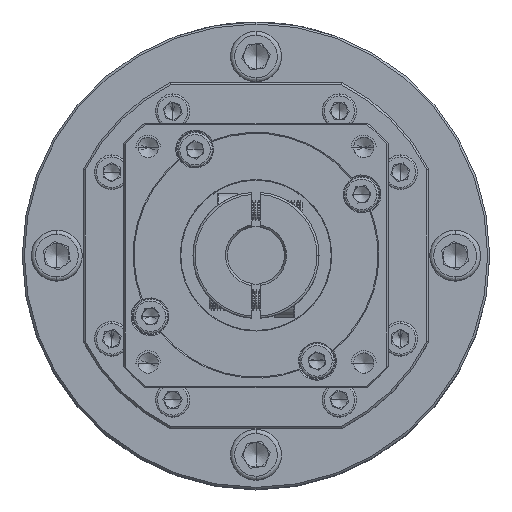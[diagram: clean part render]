
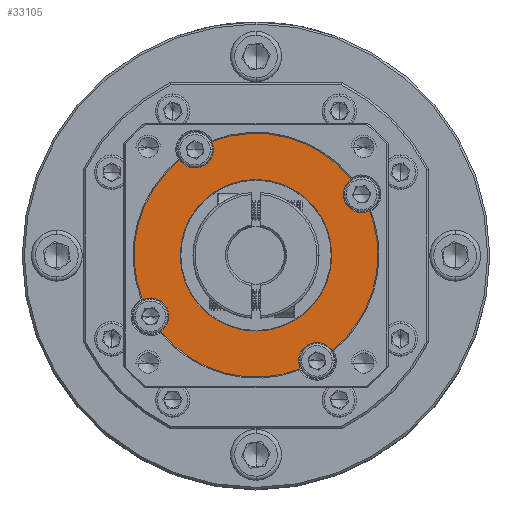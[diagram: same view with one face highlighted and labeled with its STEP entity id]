
A CAD part, top view. The second image highlights one B-rep face of the part: STEP entity #33105.
In plain terms, the highlighted planar face has unit normal (0, 0, 1).
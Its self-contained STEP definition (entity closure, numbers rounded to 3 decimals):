
#900 = AXIS2_PLACEMENT_3D ( 'NONE', #52239, #122639, #62409 ) ;
#2852 = VERTEX_POINT ( 'NONE', #86638 ) ;
#3095 = DIRECTION ( 'NONE',  ( 0., 0., 1. ) ) ;
#4271 = VERTEX_POINT ( 'NONE', #9629 ) ;
#4463 = CARTESIAN_POINT ( 'NONE',  ( -42.749, 24.641, 69.177 ) ) ;
#5043 = DIRECTION ( 'NONE',  ( 0., 0., 1. ) ) ;
#6685 = VERTEX_POINT ( 'NONE', #108021 ) ;
#7105 = DIRECTION ( 'NONE',  ( 0., 0., 1. ) ) ;
#9629 = CARTESIAN_POINT ( 'NONE',  ( -47.249, 24.641, 69.177 ) ) ;
#11180 = VERTEX_POINT ( 'NONE', #125328 ) ;
#11849 = CARTESIAN_POINT ( 'NONE',  ( -31.769, 65.622, 69.177 ) ) ;
#12743 = PLANE ( 'NONE',  #73354 ) ;
#12933 = VERTEX_POINT ( 'NONE', #101743 ) ;
#14275 = FACE_OUTER_BOUND ( 'NONE', #109542, .T. ) ;
#14549 = DIRECTION ( 'NONE',  ( 1., 0., 0. ) ) ;
#14659 = CARTESIAN_POINT ( 'NONE',  ( -31.769, 65.622, 69.177 ) ) ;
#16623 = EDGE_LOOP ( 'NONE', ( #114083, #35777 ) ) ;
#17715 = CIRCLE ( 'NONE', #55508, 30. ) ;
#18243 = VERTEX_POINT ( 'NONE', #73432 ) ;
#19780 = EDGE_CURVE ( 'NONE', #30703, #92514, #70653, .T. ) ;
#20280 = CIRCLE ( 'NONE', #48943, 4.5 ) ;
#21470 = EDGE_CURVE ( 'NONE', #41134, #92514, #39969, .T. ) ;
#21473 = ORIENTED_EDGE ( 'NONE', *, *, #37156, .F. ) ;
#21920 = DIRECTION ( 'NONE',  ( 1., 0., 0. ) ) ;
#23061 = CARTESIAN_POINT ( 'NONE',  ( -72.749, 76.603, 69.177 ) ) ;
#24735 = DIRECTION ( 'NONE',  ( 1., 0., 0. ) ) ;
#25718 = EDGE_CURVE ( 'NONE', #54316, #2852, #17715, .T. ) ;
#25875 = AXIS2_PLACEMENT_3D ( 'NONE', #4463, #74869, #14549 ) ;
#26638 = DIRECTION ( 'NONE',  ( 0., 0., 1. ) ) ;
#27350 = CIRCLE ( 'NONE', #110216, 30. ) ;
#27650 = VERTEX_POINT ( 'NONE', #70345 ) ;
#28139 = ORIENTED_EDGE ( 'NONE', *, *, #80933, .T. ) ;
#29064 = DIRECTION ( 'NONE',  ( 0., 0., -1. ) ) ;
#30054 = EDGE_CURVE ( 'NONE', #54316, #30703, #116318, .T. ) ;
#30703 = VERTEX_POINT ( 'NONE', #126845 ) ;
#30922 = ORIENTED_EDGE ( 'NONE', *, *, #64572, .T. ) ;
#32858 = CIRCLE ( 'NONE', #105246, 4.5 ) ;
#32862 = AXIS2_PLACEMENT_3D ( 'NONE', #34249, #104753, #44388 ) ;
#33105 = ADVANCED_FACE ( 'NONE', ( #94642, #14275 ), #12743, .T. ) ;
#33180 = DIRECTION ( 'NONE',  ( 1., 0., 0. ) ) ;
#34215 = CARTESIAN_POINT ( 'NONE',  ( -57.749, 50.622, 69.177 ) ) ;
#34249 = CARTESIAN_POINT ( 'NONE',  ( -83.73, 35.622, 69.177 ) ) ;
#35102 = VERTEX_POINT ( 'NONE', #92480 ) ;
#35777 = ORIENTED_EDGE ( 'NONE', *, *, #116082, .T. ) ;
#37156 = EDGE_CURVE ( 'NONE', #35102, #27650, #32858, .T. ) ;
#37904 = AXIS2_PLACEMENT_3D ( 'NONE', #105899, #45567, #116010 ) ;
#38550 = CARTESIAN_POINT ( 'NONE',  ( -85.681, 39.677, 69.177 ) ) ;
#39728 = ORIENTED_EDGE ( 'NONE', *, *, #48586, .F. ) ;
#39969 = CIRCLE ( 'NONE', #37904, 30. ) ;
#41134 = VERTEX_POINT ( 'NONE', #58638 ) ;
#42454 = DIRECTION ( 'NONE',  ( 0., 0., 1. ) ) ;
#44314 = EDGE_CURVE ( 'NONE', #41134, #75235, #76594, .T. ) ;
#44355 = DIRECTION ( 'NONE',  ( 1., 0., 0. ) ) ;
#44388 = DIRECTION ( 'NONE',  ( 1., 0., 0. ) ) ;
#45567 = DIRECTION ( 'NONE',  ( 0., 0., 1. ) ) ;
#48586 = EDGE_CURVE ( 'NONE', #51316, #4271, #96843, .T. ) ;
#48943 = AXIS2_PLACEMENT_3D ( 'NONE', #11849, #82291, #21920 ) ;
#49333 = CIRCLE ( 'NONE', #101634, 18.644 ) ;
#51316 = VERTEX_POINT ( 'NONE', #84797 ) ;
#52035 = ORIENTED_EDGE ( 'NONE', *, *, #44314, .F. ) ;
#52055 = CARTESIAN_POINT ( 'NONE',  ( -57.749, 50.622, 69.177 ) ) ;
#52239 = CARTESIAN_POINT ( 'NONE',  ( -42.749, 24.641, 69.177 ) ) ;
#52850 = CIRCLE ( 'NONE', #82600, 30. ) ;
#54316 = VERTEX_POINT ( 'NONE', #77089 ) ;
#55508 = AXIS2_PLACEMENT_3D ( 'NONE', #65366, #5043, #75426 ) ;
#55626 = CIRCLE ( 'NONE', #63869, 18.644 ) ;
#56120 = EDGE_CURVE ( 'NONE', #4271, #2852, #92357, .T. ) ;
#56259 = ORIENTED_EDGE ( 'NONE', *, *, #30054, .F. ) ;
#57217 = VERTEX_POINT ( 'NONE', #122264 ) ;
#58638 = CARTESIAN_POINT ( 'NONE',  ( -76.467, 74.067, 69.177 ) ) ;
#60177 = CARTESIAN_POINT ( 'NONE',  ( -72.749, 76.603, 69.177 ) ) ;
#61337 = AXIS2_PLACEMENT_3D ( 'NONE', #67409, #7105, #77485 ) ;
#62214 = DIRECTION ( 'NONE',  ( 1., 0., 0. ) ) ;
#62409 = DIRECTION ( 'NONE',  ( 1., 0., 0. ) ) ;
#62495 = ORIENTED_EDGE ( 'NONE', *, *, #19780, .F. ) ;
#63417 = CARTESIAN_POINT ( 'NONE',  ( -57.749, 50.622, 69.177 ) ) ;
#63683 = ORIENTED_EDGE ( 'NONE', *, *, #118568, .F. ) ;
#63869 = AXIS2_PLACEMENT_3D ( 'NONE', #89424, #29064, #99527 ) ;
#64572 = EDGE_CURVE ( 'NONE', #51316, #57217, #27350, .T. ) ;
#65366 = CARTESIAN_POINT ( 'NONE',  ( -57.749, 50.622, 69.177 ) ) ;
#67409 = CARTESIAN_POINT ( 'NONE',  ( -57.749, 50.622, 69.177 ) ) ;
#67937 = ORIENTED_EDGE ( 'NONE', *, *, #73819, .F. ) ;
#69318 = CIRCLE ( 'NONE', #71043, 4.5 ) ;
#70312 = DIRECTION ( 'NONE',  ( 1., 0., 0. ) ) ;
#70345 = CARTESIAN_POINT ( 'NONE',  ( -29.817, 61.567, 69.177 ) ) ;
#70653 = CIRCLE ( 'NONE', #32862, 4.5 ) ;
#71043 = AXIS2_PLACEMENT_3D ( 'NONE', #23061, #93547, #33180 ) ;
#73354 = AXIS2_PLACEMENT_3D ( 'NONE', #63417, #3095, #73466 ) ;
#73432 = CARTESIAN_POINT ( 'NONE',  ( -68.694, 78.554, 69.177 ) ) ;
#73466 = DIRECTION ( 'NONE',  ( 1., 0., 0. ) ) ;
#73819 = EDGE_CURVE ( 'NONE', #75235, #18243, #69318, .T. ) ;
#74869 = DIRECTION ( 'NONE',  ( 0., 0., 1. ) ) ;
#75103 = AXIS2_PLACEMENT_3D ( 'NONE', #60177, #130602, #70312 ) ;
#75235 = VERTEX_POINT ( 'NONE', #114110 ) ;
#75426 = DIRECTION ( 'NONE',  ( 1., 0., 0. ) ) ;
#76594 = CIRCLE ( 'NONE', #75103, 4.5 ) ;
#77089 = CARTESIAN_POINT ( 'NONE',  ( -81.194, 31.904, 69.177 ) ) ;
#77485 = DIRECTION ( 'NONE',  ( 1., 0., 0. ) ) ;
#80818 = ORIENTED_EDGE ( 'NONE', *, *, #21470, .T. ) ;
#80933 = EDGE_CURVE ( 'NONE', #57217, #27650, #52850, .T. ) ;
#82291 = DIRECTION ( 'NONE',  ( 0., 0., 1. ) ) ;
#82600 = AXIS2_PLACEMENT_3D ( 'NONE', #52055, #122459, #62214 ) ;
#84797 = CARTESIAN_POINT ( 'NONE',  ( -39.032, 27.177, 69.177 ) ) ;
#85097 = DIRECTION ( 'NONE',  ( 0., 0., 1. ) ) ;
#86638 = CARTESIAN_POINT ( 'NONE',  ( -46.804, 22.69, 69.177 ) ) ;
#86970 = CARTESIAN_POINT ( 'NONE',  ( -57.749, 50.622, 69.177 ) ) ;
#89424 = CARTESIAN_POINT ( 'NONE',  ( -57.749, 50.622, 69.177 ) ) ;
#90648 = ORIENTED_EDGE ( 'NONE', *, *, #127833, .T. ) ;
#92357 = CIRCLE ( 'NONE', #900, 4.5 ) ;
#92480 = CARTESIAN_POINT ( 'NONE',  ( -36.269, 65.622, 69.177 ) ) ;
#92514 = VERTEX_POINT ( 'NONE', #38550 ) ;
#93547 = DIRECTION ( 'NONE',  ( 0., 0., 1. ) ) ;
#94642 = FACE_BOUND ( 'NONE', #16623, .T. ) ;
#96843 = CIRCLE ( 'NONE', #25875, 4.5 ) ;
#96941 = EDGE_CURVE ( 'NONE', #6685, #11180, #49333, .T. ) ;
#97105 = DIRECTION ( 'NONE',  ( 1., 0., 0. ) ) ;
#99527 = DIRECTION ( 'NONE',  ( 1., 0., 0. ) ) ;
#101634 = AXIS2_PLACEMENT_3D ( 'NONE', #34215, #104719, #44355 ) ;
#101743 = CARTESIAN_POINT ( 'NONE',  ( -34.305, 69.339, 69.177 ) ) ;
#102842 = CARTESIAN_POINT ( 'NONE',  ( -83.73, 35.622, 69.177 ) ) ;
#104719 = DIRECTION ( 'NONE',  ( 0., 0., -1. ) ) ;
#104753 = DIRECTION ( 'NONE',  ( 0., 0., 1. ) ) ;
#105246 = AXIS2_PLACEMENT_3D ( 'NONE', #14659, #85097, #24735 ) ;
#105899 = CARTESIAN_POINT ( 'NONE',  ( -57.749, 50.622, 69.177 ) ) ;
#105954 = ORIENTED_EDGE ( 'NONE', *, *, #56120, .F. ) ;
#108021 = CARTESIAN_POINT ( 'NONE',  ( -39.105, 50.622, 69.177 ) ) ;
#109542 = EDGE_LOOP ( 'NONE', ( #56259, #120905, #105954, #39728, #30922, #28139, #21473, #63683, #90648, #67937, #52035, #80818, #62495 ) ) ;
#110216 = AXIS2_PLACEMENT_3D ( 'NONE', #86970, #26638, #97105 ) ;
#112951 = DIRECTION ( 'NONE',  ( 1., 0., 0. ) ) ;
#114083 = ORIENTED_EDGE ( 'NONE', *, *, #96941, .T. ) ;
#114110 = CARTESIAN_POINT ( 'NONE',  ( -68.249, 76.603, 69.177 ) ) ;
#116010 = DIRECTION ( 'NONE',  ( 1., 0., 0. ) ) ;
#116082 = EDGE_CURVE ( 'NONE', #11180, #6685, #55626, .T. ) ;
#116318 = CIRCLE ( 'NONE', #127767, 4.5 ) ;
#118568 = EDGE_CURVE ( 'NONE', #12933, #35102, #20280, .T. ) ;
#120905 = ORIENTED_EDGE ( 'NONE', *, *, #25718, .T. ) ;
#122264 = CARTESIAN_POINT ( 'NONE',  ( -27.749, 50.622, 69.177 ) ) ;
#122459 = DIRECTION ( 'NONE',  ( 0., 0., 1. ) ) ;
#122639 = DIRECTION ( 'NONE',  ( 0., 0., 1. ) ) ;
#125328 = CARTESIAN_POINT ( 'NONE',  ( -76.394, 50.622, 69.177 ) ) ;
#126845 = CARTESIAN_POINT ( 'NONE',  ( -79.23, 35.622, 69.177 ) ) ;
#127767 = AXIS2_PLACEMENT_3D ( 'NONE', #102842, #42454, #112951 ) ;
#127833 = EDGE_CURVE ( 'NONE', #12933, #18243, #129887, .T. ) ;
#129887 = CIRCLE ( 'NONE', #61337, 30. ) ;
#130602 = DIRECTION ( 'NONE',  ( 0., 0., 1. ) ) ;
